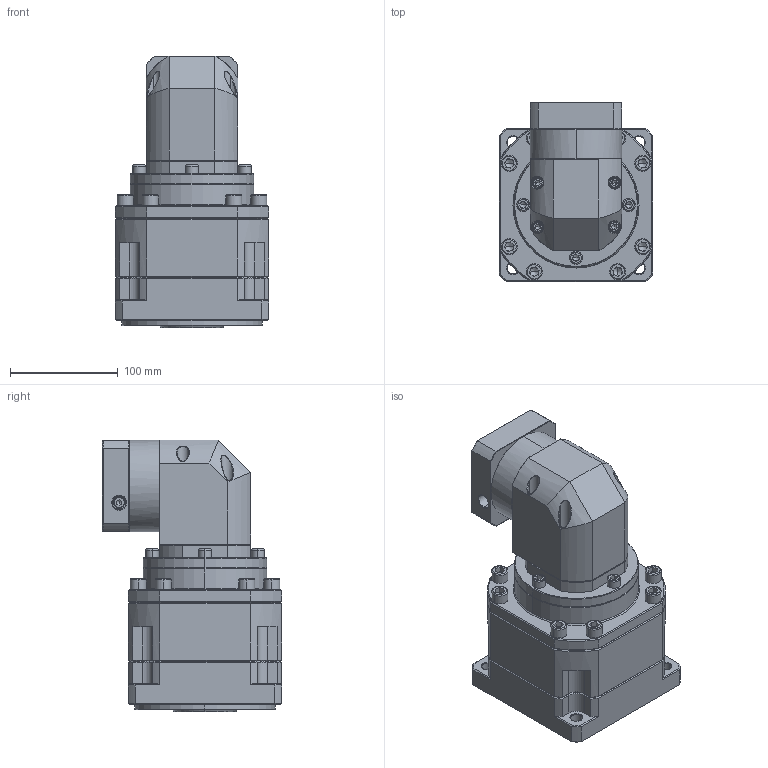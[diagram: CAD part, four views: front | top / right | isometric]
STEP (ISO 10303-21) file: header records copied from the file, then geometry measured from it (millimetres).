
FILE_DESCRIPTION (( 'STEP AP214' ), '1' );
FILE_NAME ('ZBR142A-K35-L3-P2-19-70-90-M6.step', '2023-09-02T08:41:41', ( '' ), ( '' ), 'SwSTEP 2.0', 'SolidWorks 2016', '' );
FILE_SCHEMA (( 'AUTOMOTIVE_DESIGN' ));
Length unit declared in the file: millimetre
Products named in the file (1): ZBR142A-K35-L3-P2-19-70-90-M6
Bounding box: 142 x 166.1 x 252.2 mm (x, y, z)
Volume: 3193450 mm3; surface area: 238419 mm2
Topology: 6 solids, 6 shells, 2664 faces, 6852 edges, 4315 vertices
Faces by surface type: plane 1320, cylinder 486, bspline 458, cone 386, torus 14
Entity records: 136704 total; most frequent: CARTESIAN_POINT 46347, ORIENTED_EDGE 13568, DIRECTION 11091, EDGE_CURVE 6784, LINE 4399, VECTOR 4399, VERTEX_POINT 4315, AXIS2_PLACEMENT_3D 3346
